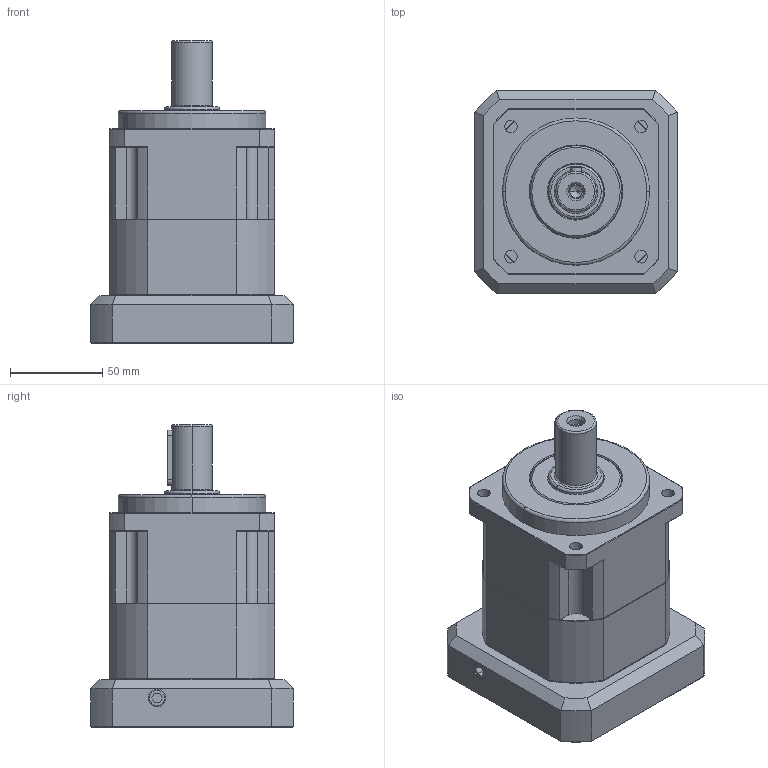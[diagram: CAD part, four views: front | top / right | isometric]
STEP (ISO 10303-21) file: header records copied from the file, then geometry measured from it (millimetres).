
FILE_DESCRIPTION (( 'STEP AP203' ), '1' );
FILE_NAME ('SB90-1-95M8.step', '2022-04-06T02:20:33', ( 'lim' ), ( '' ), 'SwSTEP 2.0', 'SolidWorks 2020', '' );
FILE_SCHEMA (( 'CONFIG_CONTROL_DESIGN' ));
Length unit declared in the file: millimetre
Products named in the file (1): SB90-1-95M8
Bounding box: 110 x 110 x 164.5 mm (x, y, z)
Volume: 722923.4 mm3; surface area: 125804.5 mm2
Topology: 2 solids, 9 shells, 670 faces, 1666 edges, 1030 vertices
Faces by surface type: plane 251, cylinder 238, cone 146, torus 33, bspline 2
Entity records: 20453 total; most frequent: CARTESIAN_POINT 4158, DIRECTION 3604, ORIENTED_EDGE 3280, EDGE_CURVE 1640, AXIS2_PLACEMENT_3D 1426, VERTEX_POINT 1030, CIRCLE 757, VECTOR 752
